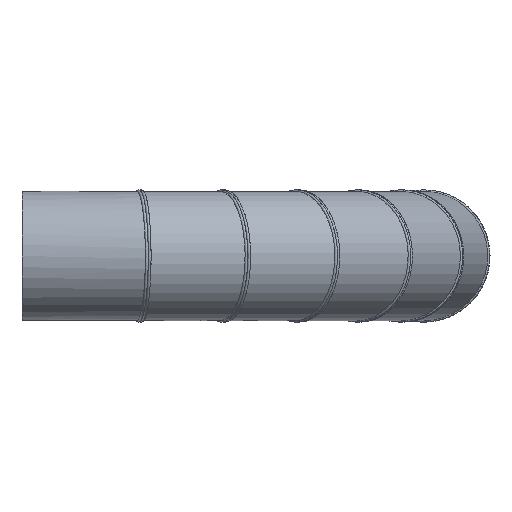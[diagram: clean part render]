
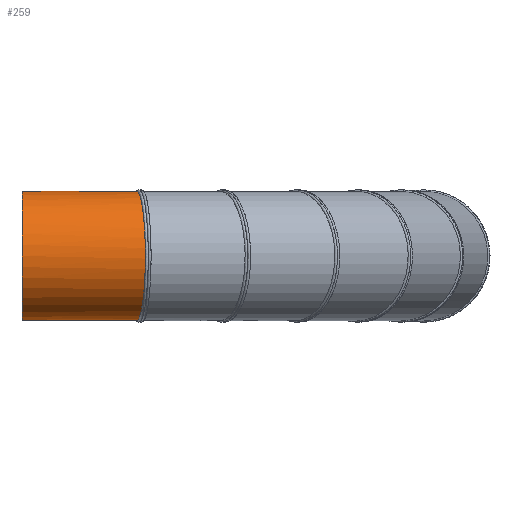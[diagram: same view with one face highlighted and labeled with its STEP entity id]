
A CAD part, front view. The second image highlights one B-rep face of the part: STEP entity #259.
In plain terms, the highlighted cylindrical face has radius 177.5 mm (diameter 355 mm), a full revolution.
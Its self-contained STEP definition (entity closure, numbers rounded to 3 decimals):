
#18=CIRCLE('',#310,177.5);
#113=ORIENTED_EDGE('',*,*,#149,.T.);
#114=ORIENTED_EDGE('',*,*,#142,.F.);
#142=EDGE_CURVE('',#164,#164,#18,.T.);
#149=EDGE_CURVE('',#171,#171,#178,.T.);
#164=VERTEX_POINT('',#1703);
#171=VERTEX_POINT('',#1800);
#178=B_SPLINE_CURVE_WITH_KNOTS('',3,(#1718,#1719,#1720,#1721,#1722,#1723,
#1724,#1725,#1726,#1727,#1728,#1729,#1730,#1731,#1732,#1733,#1734,#1735,
#1736,#1737,#1738,#1739,#1740,#1741,#1742,#1743,#1744,#1745,#1746,#1747,
#1748,#1749,#1750,#1751,#1752,#1753,#1754,#1755,#1756,#1757,#1758,#1759,
#1760,#1761,#1762,#1763,#1764,#1765,#1766,#1767,#1768,#1769,#1770,#1771,
#1772,#1773,#1774,#1775,#1776,#1777,#1778,#1779,#1780,#1781,#1782,#1783,
#1784,#1785,#1786,#1787,#1788,#1789,#1790,#1791,#1792,#1793,#1794,#1795,
#1796,#1797,#1798,#1799),.UNSPECIFIED.,.T.,.F.,(1,1,1,1,1,1,1,1,1,1,1,1,
1,1,1,1,1,1,1,1,1,1,1,1,1,1,1,1,1,1,1,1,1,1,1,1,1,1,1,1,1,1,1,1,1,1,1,1,
1,1,1,1,1,1,1,1,1,1,1,1,1,1,1,1,1,1,1,1,1,1,1,1,1,1,1,1,1,1,1,1,1,1,1,1,
1,1),(-0.07,-0.053,-0.035,0.,
0.018,0.035,0.044,0.053,
0.07,0.088,0.097,0.105,
0.123,0.141,0.158,0.167,
0.176,0.193,0.211,0.229,
0.246,0.264,0.272,0.281,
0.299,0.316,0.334,0.343,
0.352,0.36,0.369,0.387,
0.404,0.422,0.439,0.457,
0.475,0.483,0.492,0.51,
0.527,0.545,0.554,0.562,
0.571,0.58,0.598,0.615,
0.633,0.65,0.659,0.668,
0.686,0.703,0.721,0.729,0.738,
0.747,0.756,0.773,0.791,
0.809,0.817,0.826,0.844,
0.861,0.879,0.896,0.914,
0.932,0.94,0.949,0.958,
0.967,0.984,1.002,1.019,1.037,
1.046,1.055,1.072,1.09,1.125,
1.143,1.16,1.169),.UNSPECIFIED.);
#201=EDGE_LOOP('',(#113));
#202=EDGE_LOOP('',(#114));
#229=FACE_BOUND('',#201,.T.);
#230=FACE_BOUND('',#202,.T.);
#243=CYLINDRICAL_SURFACE('',#318,177.5);
#259=ADVANCED_FACE('',(#229,#230),#243,.T.);
#310=AXIS2_PLACEMENT_3D('',#1702,#370,#371);
#318=AXIS2_PLACEMENT_3D('',#1717,#386,#387);
#370=DIRECTION('',(0.,1.,0.));
#371=DIRECTION('',(-1.,0.,0.));
#386=DIRECTION('',(0.,1.,0.));
#387=DIRECTION('',(-1.,0.,0.));
#1702=CARTESIAN_POINT('',(899.097,205.,0.));
#1703=CARTESIAN_POINT('',(721.597,205.,0.));
#1717=CARTESIAN_POINT('',(899.097,-141.737,0.));
#1718=CARTESIAN_POINT('',(723.34,-87.194,-29.263));
#1719=CARTESIAN_POINT('',(721.014,-86.889,-5.865));
#1720=CARTESIAN_POINT('',(722.18,-87.042,17.58));
#1721=CARTESIAN_POINT('',(724.332,-87.325,31.995));
#1722=CARTESIAN_POINT('',(726.918,-87.664,43.434));
#1723=CARTESIAN_POINT('',(730.042,-88.074,54.641));
#1724=CARTESIAN_POINT('',(734.932,-88.716,68.235));
#1725=CARTESIAN_POINT('',(741.115,-89.528,81.283));
#1726=CARTESIAN_POINT('',(746.847,-90.281,91.388));
#1727=CARTESIAN_POINT('',(753.116,-91.104,101.269));
#1728=CARTESIAN_POINT('',(761.796,-92.244,112.946));
#1729=CARTESIAN_POINT('',(773.587,-93.793,125.918));
#1730=CARTESIAN_POINT('',(784.375,-95.21,135.664));
#1731=CARTESIAN_POINT('',(793.579,-96.42,142.82));
#1732=CARTESIAN_POINT('',(803.08,-97.669,149.486));
#1733=CARTESIAN_POINT('',(815.594,-99.314,156.955));
#1734=CARTESIAN_POINT('',(831.339,-101.384,164.367));
#1735=CARTESIAN_POINT('',(847.795,-103.548,170.22));
#1736=CARTESIAN_POINT('',(864.504,-105.746,174.378));
#1737=CARTESIAN_POINT('',(878.693,-107.613,176.487));
#1738=CARTESIAN_POINT('',(890.186,-109.126,177.347));
#1739=CARTESIAN_POINT('',(901.807,-110.656,177.645));
#1740=CARTESIAN_POINT('',(916.263,-112.559,176.954));
#1741=CARTESIAN_POINT('',(933.53,-114.834,174.418));
#1742=CARTESIAN_POINT('',(947.578,-116.684,170.923));
#1743=CARTESIAN_POINT('',(958.633,-118.141,167.293));
#1744=CARTESIAN_POINT('',(966.753,-119.211,164.177));
#1745=CARTESIAN_POINT('',(974.709,-120.26,160.668));
#1746=CARTESIAN_POINT('',(985.115,-121.632,155.455));
#1747=CARTESIAN_POINT('',(997.58,-123.275,148.017));
#1748=CARTESIAN_POINT('',(1011.65,-125.131,137.621));
#1749=CARTESIAN_POINT('',(1024.595,-126.839,125.931));
#1750=CARTESIAN_POINT('',(1036.38,-128.393,112.963));
#1751=CARTESIAN_POINT('',(1046.698,-129.755,99.093));
#1752=CARTESIAN_POINT('',(1054.149,-130.738,86.739));
#1753=CARTESIAN_POINT('',(1059.399,-131.432,76.387));
#1754=CARTESIAN_POINT('',(1064.174,-132.062,65.693));
#1755=CARTESIAN_POINT('',(1069.118,-132.715,51.975));
#1756=CARTESIAN_POINT('',(1073.423,-133.283,34.917));
#1757=CARTESIAN_POINT('',(1075.581,-133.568,20.479));
#1758=CARTESIAN_POINT('',(1076.452,-133.683,8.786));
#1759=CARTESIAN_POINT('',(1076.668,-133.712,0.029));
#1760=CARTESIAN_POINT('',(1076.454,-133.683,-8.731));
#1761=CARTESIAN_POINT('',(1075.587,-133.569,-20.426));
#1762=CARTESIAN_POINT('',(1073.435,-133.285,-34.86));
#1763=CARTESIAN_POINT('',(1069.131,-132.716,-51.927));
#1764=CARTESIAN_POINT('',(1063.256,-131.941,-68.245));
#1765=CARTESIAN_POINT('',(1057.074,-131.125,-81.288));
#1766=CARTESIAN_POINT('',(1051.357,-130.37,-91.37));
#1767=CARTESIAN_POINT('',(1045.097,-129.544,-101.242));
#1768=CARTESIAN_POINT('',(1036.412,-128.398,-112.928));
#1769=CARTESIAN_POINT('',(1024.623,-126.842,-125.901));
#1770=CARTESIAN_POINT('',(1013.844,-125.42,-135.641));
#1771=CARTESIAN_POINT('',(1004.638,-124.206,-142.803));
#1772=CARTESIAN_POINT('',(997.506,-123.266,-147.808));
#1773=CARTESIAN_POINT('',(990.144,-122.295,-152.454));
#1774=CARTESIAN_POINT('',(980.001,-120.958,-158.177));
#1775=CARTESIAN_POINT('',(966.881,-119.228,-164.356));
#1776=CARTESIAN_POINT('',(950.428,-117.06,-170.213));
#1777=CARTESIAN_POINT('',(936.379,-115.209,-173.71));
#1778=CARTESIAN_POINT('',(924.916,-113.699,-175.684));
#1779=CARTESIAN_POINT('',(913.461,-112.191,-177.082));
#1780=CARTESIAN_POINT('',(899.131,-110.304,-177.776));
#1781=CARTESIAN_POINT('',(881.951,-108.042,-176.953));
#1782=CARTESIAN_POINT('',(864.694,-105.771,-174.424));
#1783=CARTESIAN_POINT('',(847.824,-103.552,-170.23));
#1784=CARTESIAN_POINT('',(831.372,-101.388,-164.38));
#1785=CARTESIAN_POINT('',(818.25,-99.663,-158.206));
#1786=CARTESIAN_POINT('',(808.105,-98.329,-152.487));
#1787=CARTESIAN_POINT('',(800.742,-97.361,-147.844));
#1788=CARTESIAN_POINT('',(793.608,-96.424,-142.842));
#1789=CARTESIAN_POINT('',(784.399,-95.214,-135.684));
#1790=CARTESIAN_POINT('',(773.618,-93.797,-125.95));
#1791=CARTESIAN_POINT('',(761.818,-92.247,-112.97));
#1792=CARTESIAN_POINT('',(751.488,-90.89,-99.082));
#1793=CARTESIAN_POINT('',(744.042,-89.912,-86.734));
#1794=CARTESIAN_POINT('',(738.8,-89.224,-76.399));
#1795=CARTESIAN_POINT('',(734.03,-88.598,-65.721));
#1796=CARTESIAN_POINT('',(729.079,-87.948,-51.987));
#1797=CARTESIAN_POINT('',(723.34,-87.194,-29.263));
#1798=CARTESIAN_POINT('',(721.014,-86.889,-5.865));
#1799=CARTESIAN_POINT('',(722.18,-87.042,17.58));
#1800=CARTESIAN_POINT('',(721.597,-86.965,0.));
